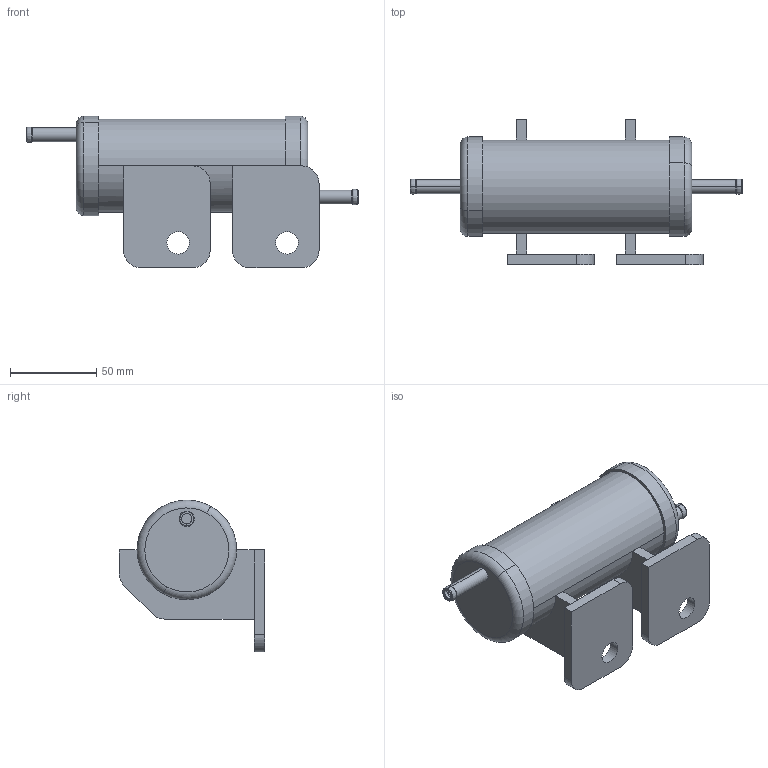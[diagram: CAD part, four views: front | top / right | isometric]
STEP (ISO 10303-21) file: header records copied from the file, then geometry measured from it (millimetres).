
FILE_DESCRIPTION(('CATIA V6 STEP'),'2;1');
FILE_NAME('D:\OneDrive - i0212078\OneDrive - Doosan\3. Product\1. G2 StageV (Bosch)\3. Drawings\3. DM03\ATS\420211-01467A 00 PIPE;RESERVOIR TANK ATS Released M.stp','2020-09-25T06:03:44+00:00',('none'),('none'),'3DEXPERIENCE Platform3DEXPERIENCE R2014x HotFix 24','3DEXPERIENCE Platform STEP AP203','none');
FILE_SCHEMA(('CONFIG_CONTROL_DESIGN'));
Length unit declared in the file: millimetre
Bounding box: 192.1 x 84 x 87.79 mm (x, y, z)
Volume: 98321.3 mm3; surface area: 85399.6 mm2
Topology: 9 solids, 9 shells, 130 faces, 287 edges, 175 vertices
Faces by surface type: cylinder 48, plane 46, torus 24, revolution 8, cone 4
Entity records: 3565 total; most frequent: CARTESIAN_POINT 754, ORIENTED_EDGE 568, DIRECTION 501, EDGE_CURVE 284, AXIS2_PLACEMENT_3D 261, VERTEX_POINT 168, CIRCLE 154, EDGE_LOOP 140
